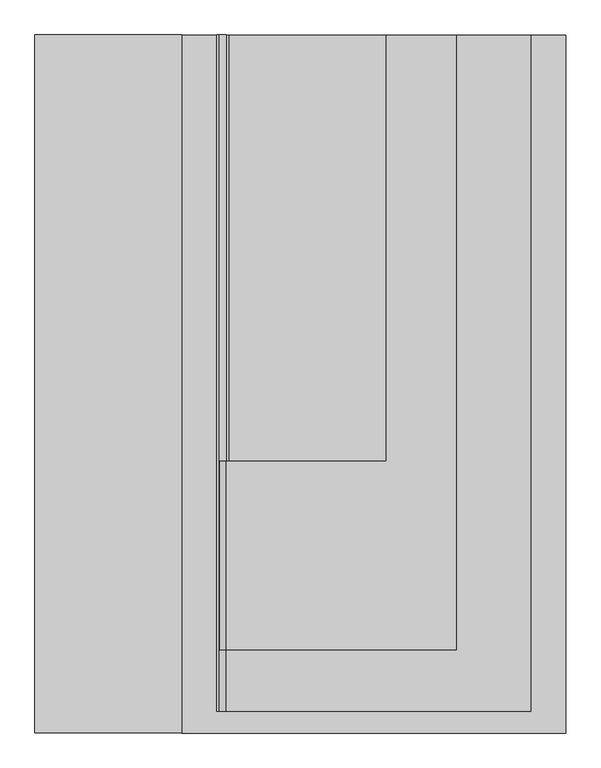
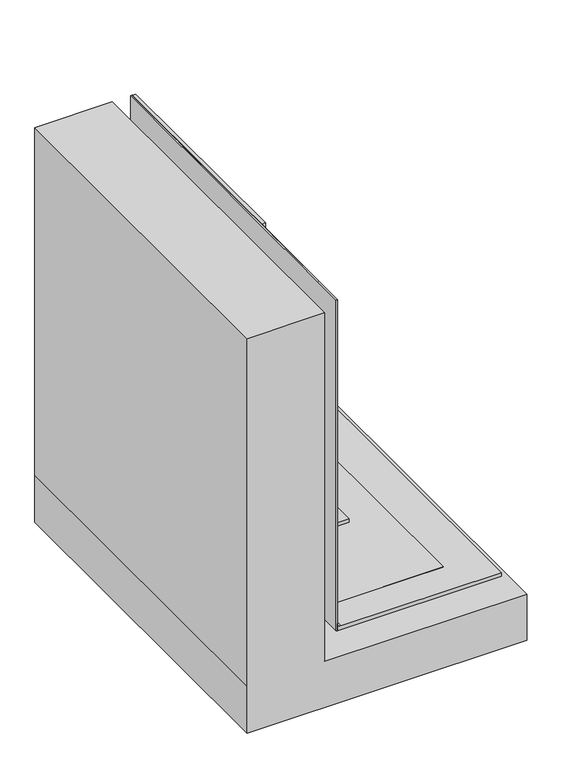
"""IFC4 building model written with IfcOpenShell, lengths in millimetres: proxy geometry, IMPER:IMPER:433934 : IMPER:IMPER:433934."""

from ifc_helpers import new_model, si_unit, point, frame, frame_2d, origin, place, context, project, spatial, polyline, circle_curve, trimmed, segment, composite_curve, outline, extrude, source, transform, mapped, element, save


def generic_models_8491444a(model_context):
    return source(origin(), model_context, "Body", "SweptSolid", [
        extrude(outline(polyline([(-351.9704105, 145.8700195), (-341.9704105, 145.8700195), (-341.9704105, -2759.8858707), (-351.9704105, -2759.8858707), (-351.9704105, 145.8700195)])), frame((0.0, 0.0, 147.476202), z_axis=(0.0, 0.0, 1.0), x_axis=(1.0, 0.0, 0.0)), (0.0, 0.0, 1.0), 2850.0),
        extrude(outline(polyline([(-309.9704105, 145.8700195), (-299.9704105, 145.8700195), (-299.9704105, -1684.712399), (-309.9704105, -1684.712399), (-309.9704105, 145.8700195)])), frame((0.0, 0.0, 199.476202), z_axis=(0.0, 0.0, 1.0), x_axis=(1.0, 0.0, 0.0)), (0.0, 0.0, 1.0), 10.0),
        extrude(outline(composite_curve([segment(polyline([(178.476202, 373.914583), (209.476202, 373.914583), (209.476202, -299.9704105), (199.476202, -299.9704105), (199.476202, -309.9704105), (2997.476202, -309.9704105), (2997.476202, -340.9704105), (206.476202, -340.9704105)]), True, "CONTINUOUS"), segment(trimmed(circle_curve(frame_2d((206.476202, -312.9704105)), 28.0), [point((206.476202, -340.9704105))], [point((178.476202, -312.9704105))], False, "CARTESIAN"), True, "CONTINUOUS"), segment(polyline([(178.476202, -312.9704105), (178.476202, 373.914583)]), True, "CONTINUOUS")], self_intersect=False)), frame((0.0, -1684.712399, 0.0), z_axis=(0.0, 1.0, 0.0), x_axis=(0.0, 0.0, 1.0)), (0.0, 0.0, 1.0), 1830.5824185),
        extrude(outline(polyline([(-340.9704105, 145.8700195), (-339.9704105, 145.8700195), (-339.9704105, -2128.5024275), (-340.9704105, -2128.5024275), (-340.9704105, 145.8700195)])), frame((0.0, 0.0, 207.476202), z_axis=(0.0, 0.0, 1.0), x_axis=(1.0, 0.0, 0.0)), (0.0, 0.0, 1.0), 2790.0),
        extrude(outline(composite_curve([segment(polyline([(178.476202, 676.9278399), (178.476202, -311.9704105)]), True, "CONTINUOUS"), segment(trimmed(circle_curve(frame_2d((207.476202, -311.9704105)), 29.0), [point((178.476202, -311.9704105))], [point((207.476202, -340.9704105))], True, "CARTESIAN"), True, "CONTINUOUS"), segment(polyline([(207.476202, -340.9704105), (2997.476202, -340.9704105), (2997.476202, -341.9704105), (207.476202, -341.9704105)]), True, "CONTINUOUS"), segment(trimmed(circle_curve(frame_2d((207.476202, -311.9704105)), 30.0), [point((207.476202, -341.9704105))], [point((177.476202, -311.9704105))], False, "CARTESIAN"), True, "CONTINUOUS"), segment(polyline([(177.476202, -311.9704105), (177.476202, 676.9278399), (178.476202, 676.9278399)]), True, "CONTINUOUS")], self_intersect=False)), frame((0.0, -2495.1314454, 0.0), z_axis=(0.0, 1.0, 0.0), x_axis=(0.0, 0.0, 1.0)), (0.0, 0.0, 1.0), 2641.0014649),
        extrude(outline(composite_curve([segment(polyline([(177.476202, 996.9278399), (177.476202, -311.9704105)]), True, "CONTINUOUS"), segment(trimmed(circle_curve(frame_2d((207.476202, -311.9704105)), 30.0), [point((177.476202, -311.9704105))], [point((207.476202, -341.9704105))], True, "CARTESIAN"), True, "CONTINUOUS"), segment(polyline([(207.476202, -341.9704105), (147.476202, -341.9704105), (147.476202, 996.9278399), (177.476202, 996.9278399)]), True, "CONTINUOUS")], self_intersect=False)), frame((0.0, -2759.8858707, 0.0), z_axis=(0.0, 1.0, 0.0), x_axis=(0.0, 0.0, 1.0)), (0.0, 0.0, 1.0), 2905.7558902),
        extrude(outline(polyline([(-402.523798, -1133.0721601), (-402.523798, 1148.0295895), (-2.523798, 1148.0295895), (-2.523798, -501.9704105), (2997.476202, -501.9704105), (2997.476202, -1133.0721601), (-2.523798, -1133.0721601), (-402.523798, -1133.0721601)])), frame((0.0, -2854.1299805, 0.0), z_axis=(0.0, 1.0, 0.0), x_axis=(0.0, 0.0, 1.0)), (0.0, 0.0, 1.0), 3000.0),
    ])


if __name__ == "__main__":
    model = new_model("IFC4")
    model_context = context("Model", 3, world=origin())
    ifc_project = project(units=[si_unit("LENGTHUNIT", "METRE", prefix="MILLI")], contexts=[model_context])
    site = spatial("IfcSite", under=ifc_project)
    building = spatial("IfcBuilding", under=site)
    placement = place(None, origin())
    generic_models_shape = generic_models_8491444a(model_context)
    element("IfcBuildingElementProxy", 1, Name="IMPER:IMPER:433934 : IMPER:IMPER:433934", ObjectType="IMPER:IMPER:433934 : IMPER:IMPER:433934", at=placement, inside=building, context=model_context, shape_type="MappedRepresentation", body=[
        mapped(generic_models_shape, transform((0.0, 0.0, 0.0), x_axis=(1.0, 0.0, 0.0), y_axis=(0.0, 1.0, 0.0), z_axis=(0.0, 0.0, 1.0))),
    ])
    save(model, "model.ifc")
